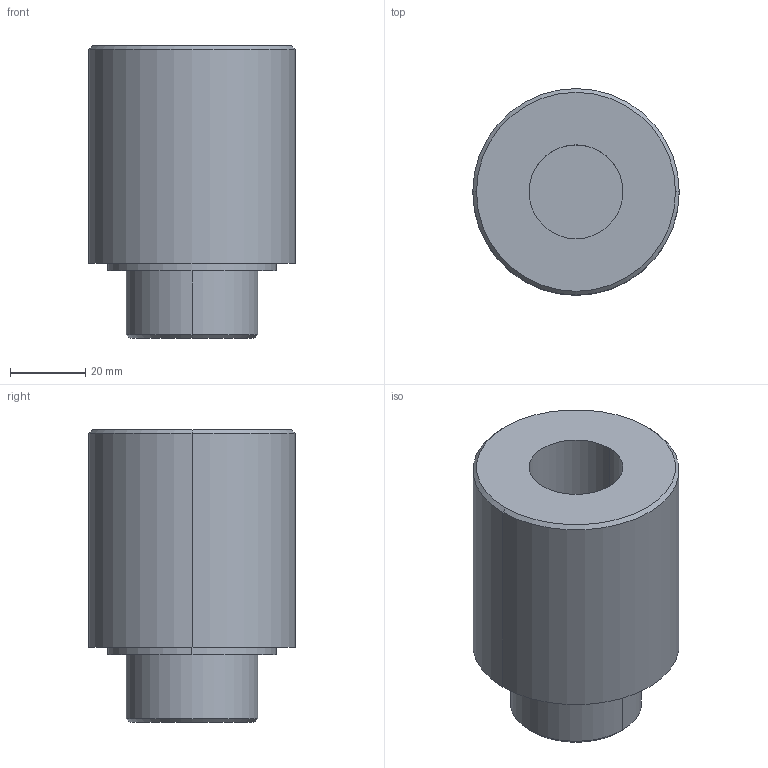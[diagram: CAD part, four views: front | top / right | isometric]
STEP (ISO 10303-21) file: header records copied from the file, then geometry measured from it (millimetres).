
FILE_DESCRIPTION((''),'2;1');
FILE_NAME('SC80','2017-04-05T',('Owner'),(''),'PRO/ENGINEER BY PARAMETRIC TECHNOLOGY CORPORATION, 2009440','PRO/ENGINEER BY PARAMETRIC TECHNOLOGY CORPORATION, 2009440','');
FILE_SCHEMA(('CONFIG_CONTROL_DESIGN'));
Length unit declared in the file: millimetre
Products named in the file (1): SC80
Bounding box: 55 x 55 x 78 mm (x, y, z)
Volume: 143431.5 mm3; surface area: 19223.3 mm2
Topology: 1 solids, 1 shells, 17 faces, 32 edges, 20 vertices
Faces by surface type: cylinder 8, plane 5, cone 4
Entity records: 472 total; most frequent: DIRECTION 86, CARTESIAN_POINT 69, ORIENTED_EDGE 64, AXIS2_PLACEMENT_3D 37, EDGE_CURVE 32, VERTEX_POINT 20, EDGE_LOOP 20, CIRCLE 20
